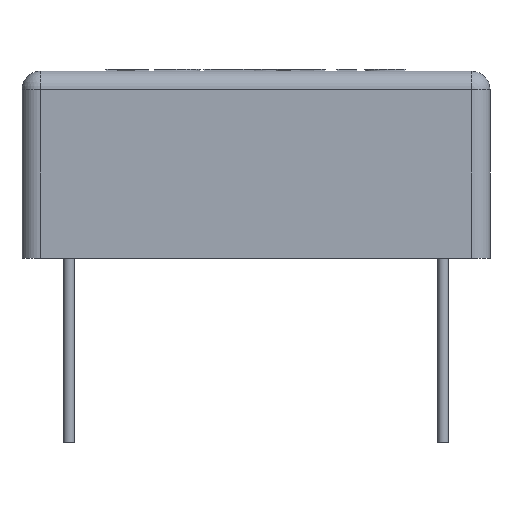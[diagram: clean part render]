
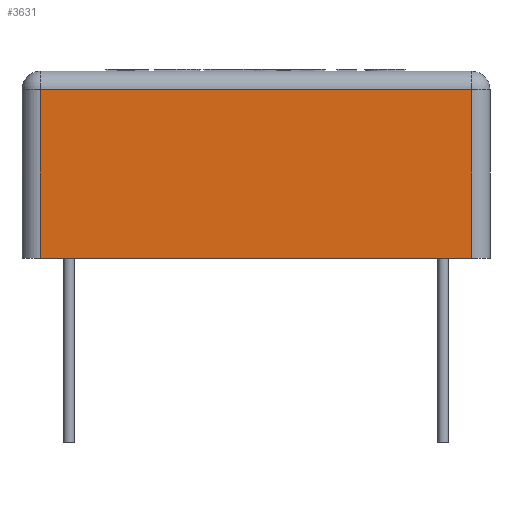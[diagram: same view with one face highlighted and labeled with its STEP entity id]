
A CAD part, front view. The second image highlights one B-rep face of the part: STEP entity #3631.
In plain terms, the highlighted planar face has unit normal (0, -1, 0).
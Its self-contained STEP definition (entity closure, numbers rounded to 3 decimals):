
#82 = CARTESIAN_POINT ( 'NONE',  ( -12.7, -12.7, -10.16 ) ) ;
#178 = EDGE_CURVE ( 'NONE', #6397, #3621, #1539, .T. ) ;
#369 = VECTOR ( 'NONE', #1603, 1000. ) ;
#376 = VECTOR ( 'NONE', #4696, 1000. ) ;
#594 = VERTEX_POINT ( 'NONE', #2806 ) ;
#986 = LINE ( 'NONE', #3733, #1540 ) ;
#1021 = ORIENTED_EDGE ( 'NONE', *, *, #6543, .T. ) ;
#1074 = EDGE_CURVE ( 'NONE', #594, #6397, #6273, .T. ) ;
#1478 = DIRECTION ( 'NONE',  ( 0., 0., 1. ) ) ;
#1501 = AXIS2_PLACEMENT_3D ( 'NONE', #2735, #3749, #1596 ) ;
#1539 = LINE ( 'NONE', #2570, #376 ) ;
#1540 = VECTOR ( 'NONE', #1478, 1000. ) ;
#1548 = EDGE_LOOP ( 'NONE', ( #3460, #2829, #6369, #1021 ) ) ;
#1596 = DIRECTION ( 'NONE',  ( 0., 0., -1. ) ) ;
#1603 = DIRECTION ( 'NONE',  ( -1., 0., 0. ) ) ;
#1679 = DIRECTION ( 'NONE',  ( 1., 0., 0. ) ) ;
#2570 = CARTESIAN_POINT ( 'NONE',  ( -11.7, -12.7, -10.16 ) ) ;
#2735 = CARTESIAN_POINT ( 'NONE',  ( -12.7, -12.7, -10.16 ) ) ;
#2806 = CARTESIAN_POINT ( 'NONE',  ( 11.7, -12.7, -1. ) ) ;
#2829 = ORIENTED_EDGE ( 'NONE', *, *, #178, .T. ) ;
#2952 = CARTESIAN_POINT ( 'NONE',  ( 11.7, -12.7, -10.16 ) ) ;
#2971 = CARTESIAN_POINT ( 'NONE',  ( -11.7, -12.7, -10.16 ) ) ;
#3460 = ORIENTED_EDGE ( 'NONE', *, *, #1074, .T. ) ;
#3621 = VERTEX_POINT ( 'NONE', #2971 ) ;
#3631 = ADVANCED_FACE ( 'NONE', ( #6376 ), #5357, .T. ) ;
#3733 = CARTESIAN_POINT ( 'NONE',  ( 11.7, -12.7, -10.16 ) ) ;
#3749 = DIRECTION ( 'NONE',  ( 0., -1., 0. ) ) ;
#3991 = VECTOR ( 'NONE', #1679, 1000. ) ;
#4569 = VERTEX_POINT ( 'NONE', #2952 ) ;
#4696 = DIRECTION ( 'NONE',  ( 0., 0., -1. ) ) ;
#4795 = CARTESIAN_POINT ( 'NONE',  ( -12.7, -12.7, -1. ) ) ;
#5357 = PLANE ( 'NONE',  #1501 ) ;
#5594 = EDGE_CURVE ( 'NONE', #3621, #4569, #6390, .T. ) ;
#5946 = CARTESIAN_POINT ( 'NONE',  ( -11.7, -12.7, -1. ) ) ;
#6273 = LINE ( 'NONE', #4795, #369 ) ;
#6369 = ORIENTED_EDGE ( 'NONE', *, *, #5594, .T. ) ;
#6376 = FACE_OUTER_BOUND ( 'NONE', #1548, .T. ) ;
#6390 = LINE ( 'NONE', #82, #3991 ) ;
#6397 = VERTEX_POINT ( 'NONE', #5946 ) ;
#6543 = EDGE_CURVE ( 'NONE', #4569, #594, #986, .T. ) ;
